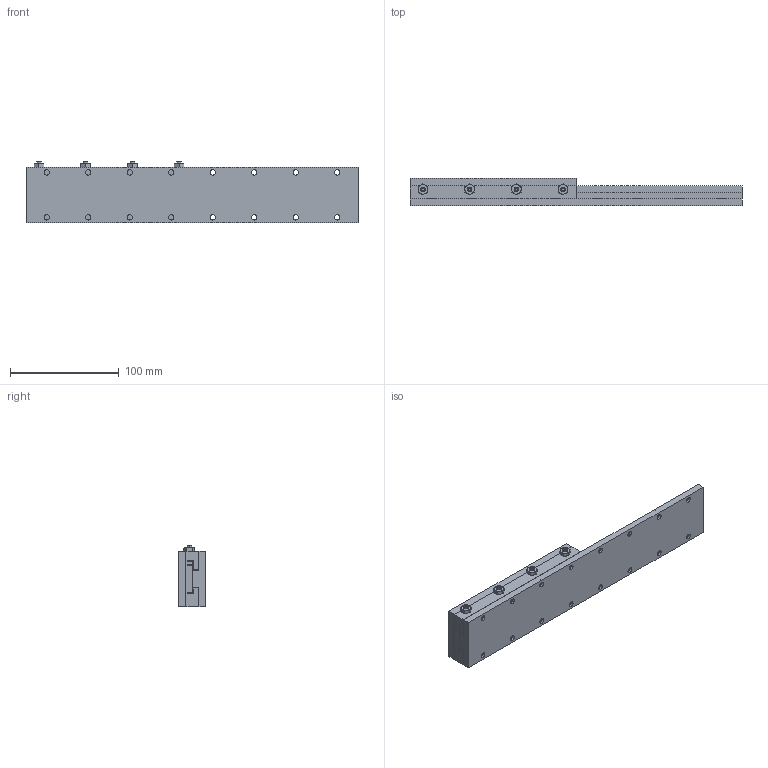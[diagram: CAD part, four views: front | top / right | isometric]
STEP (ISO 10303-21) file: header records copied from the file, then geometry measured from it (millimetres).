
FILE_DESCRIPTION (( 'STEP AP214' ), '1' );
FILE_NAME ('SW02-SL06-BL12.STEP', '2010-10-04T15:51:59', ( ' ' ), ( '' ), 'SwSTEP 2.0', 'SolidWorks 2010', '' );
FILE_SCHEMA (( 'AUTOMOTIVE_DESIGN' ));
Length unit declared in the file: inch
Products named in the file (11): Gen2 Adj Gib_02x06 ADJ GIB; Gen2 SADDLE_02x06 SADDLE; Gen2 Top plate_02x06 TPLATE; Gen2 Hardplate_02x12 HPLATE; Gen2 Gib_02x06 GIB; SW02-SL06-BL12; Gen2 Baseplate_02x12 BASE; Gen2 BASE_02x12 BASE; Gen2 Bar_02x06 BAR; _MSHXNUT_MSHXNUT 0.164-32-D-N; _SSCUPSOC_SSCUPSKT 0.164-32x0.625-HX-N
Assembly tree (16 placements, depth 3):
  SW02-SL06-BL12
    Gen2 BASE_02x12 BASE
      Gen2 Hardplate_02x12 HPLATE
      Gen2 Baseplate_02x12 BASE
    Gen2 SADDLE_02x06 SADDLE
      _SSCUPSOC_SSCUPSKT 0.164-32x0.625-HX-N  x4
      _MSHXNUT_MSHXNUT 0.164-32-D-N  x4
      Gen2 Gib_02x06 GIB
      Gen2 Adj Gib_02x06 ADJ GIB
      Gen2 Top plate_02x06 TPLATE
      Gen2 Bar_02x06 BAR
Bounding box: 304.8 x 25.4 x 56.07 mm (x, y, z)
Volume: 277724.7 mm3; surface area: 119120.7 mm2
Topology: 19 solids, 19 shells, 362 faces, 816 edges, 508 vertices
Faces by surface type: plane 162, cylinder 112, cone 88
Entity records: 7459 total; most frequent: CARTESIAN_POINT 1224, DIRECTION 1210, ORIENTED_EDGE 1052, EDGE_CURVE 526, AXIS2_PLACEMENT_3D 457, VERTEX_POINT 343, EDGE_LOOP 301, VECTOR 296
